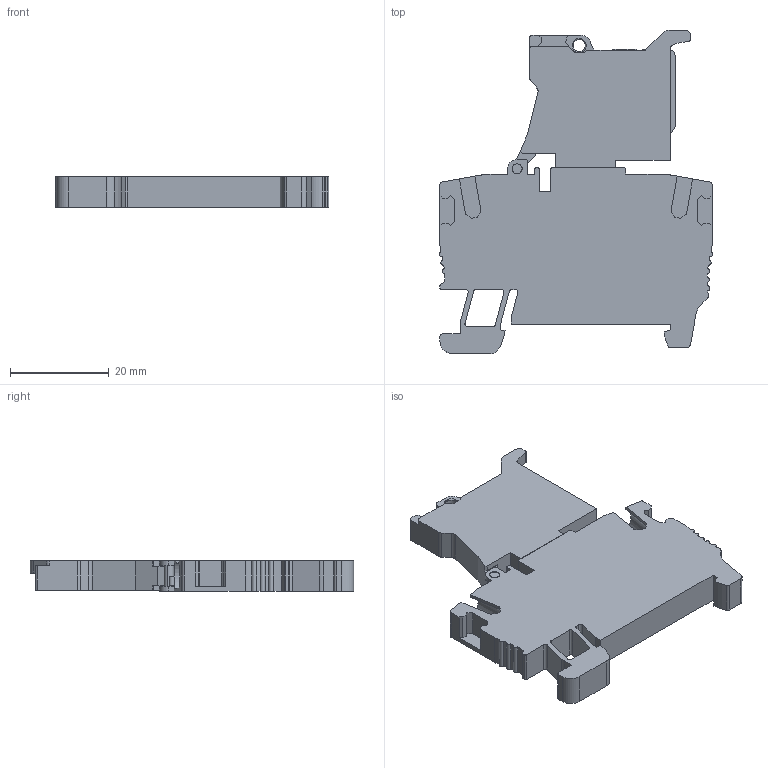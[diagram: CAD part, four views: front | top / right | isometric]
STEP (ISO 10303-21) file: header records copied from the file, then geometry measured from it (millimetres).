
FILE_DESCRIPTION(('Creo Elements/Direct Modeling STEP Export'),'2;1');
FILE_NAME('EFF.4.stp','2019-01-08T 8:25:32',(''),(''),'Creo Elements/Direct Modeling STEP processor for AP214 (Solid Model)','Creo Elements/Direct Modeling 20.1 10-Mar-2018 (C) Parametric Technology GmbH','');
FILE_SCHEMA(('AUTOMOTIVE_DESIGN { 1 0 10303 214 1 1 1 1 }'));
Length unit declared in the file: millimetre
Products named in the file (3): EFF_4__CON_CIRCUITO_CIL_-111130.PRT; EFF_4__CON_CIRCUITO_CIL_-112800.ASM; EFF_4.stp
Assembly tree (2 placements, depth 3):
  EFF_4.stp
    EFF_4__CON_CIRCUITO_CIL_-112800.ASM
      EFF_4__CON_CIRCUITO_CIL_-111130.PRT
Bounding box: 55.56 x 65.6 x 6.2 mm (x, y, z)
Volume: 13526.4 mm3; surface area: 7767.8 mm2
Topology: 1 solids, 1 shells, 323 faces, 923 edges, 610 vertices
Faces by surface type: plane 236, cylinder 85, cone 2
Entity records: 11551 total; most frequent: ORIENTED_EDGE 1846, CARTESIAN_POINT 1842, DIRECTION 1728, EDGE_CURVE 923, VECTOR 736, LINE 736, VERTEX_POINT 610, AXIS2_PLACEMENT_3D 496
